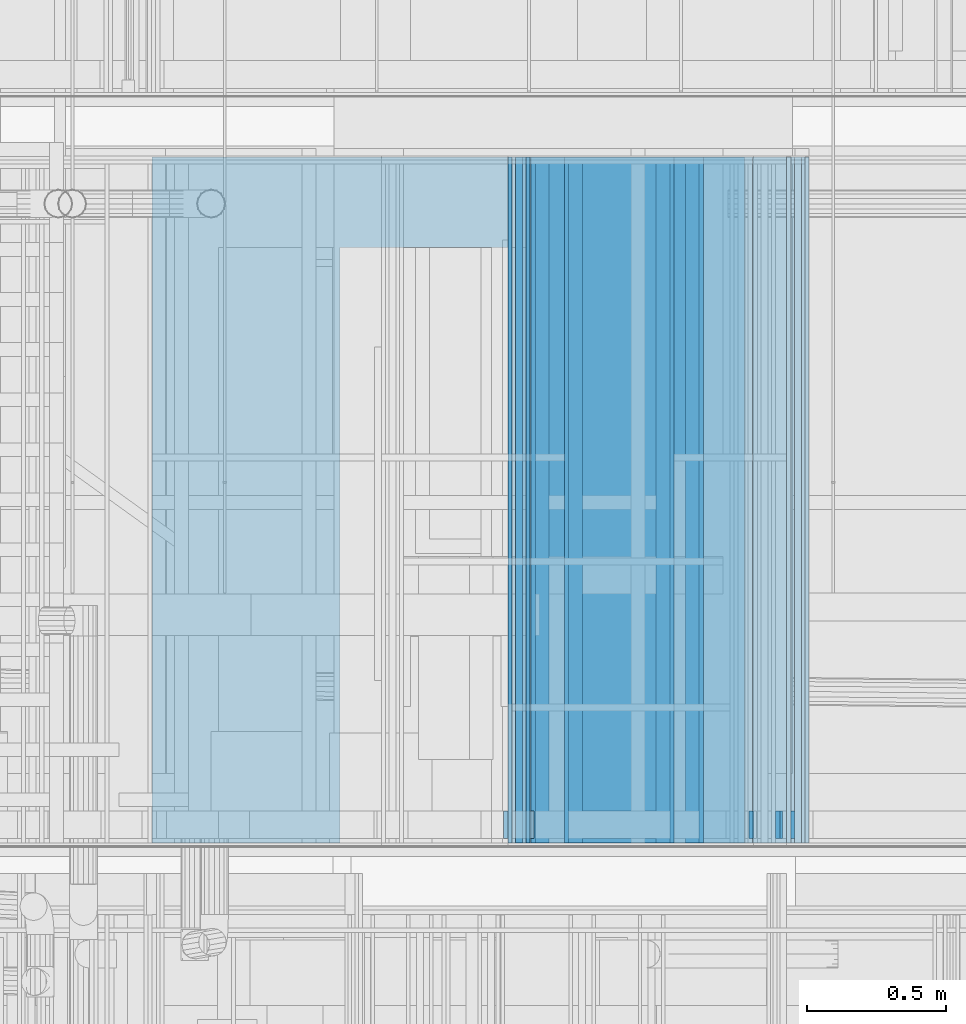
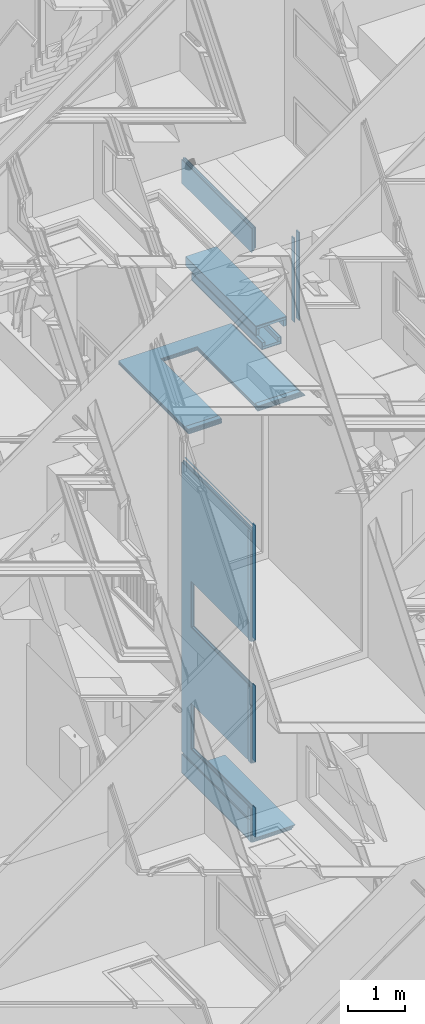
# One storey, part 160 of 583: 37 building element parts, 3 openings, 11 elements without a shape of their own.
"""IFC2X3 building model written with IfcOpenShell, lengths in metres."""

from ifc_helpers import new_model, entity, si_unit, converted_unit, derived_unit, money_unit, direction, frame, frame_2d, origin_with_axes, place, context, subcontext, project, spatial, polyline, rectangle, outline, extrude, material, type_object, element, aggregate, save


model = new_model("IFC2X3")

# Units and contexts
model_context = context("Model", 3, precision=1e-05, world=origin_with_axes(), true_north=direction((0.0, 1.0)))
body_context = subcontext(model_context, "Body", "Model", "MODEL_VIEW", scale=1.0)
ifc_project = project(units=[si_unit("LENGTHUNIT", "METRE"), si_unit("AREAUNIT", "SQUARE_METRE"), si_unit("VOLUMEUNIT", "CUBIC_METRE"), si_unit("ABSORBEDDOSEUNIT", "GRAY"), si_unit("AMOUNTOFSUBSTANCEUNIT", "MOLE"), si_unit("DOSEEQUIVALENTUNIT", "SIEVERT"), si_unit("ELECTRICCAPACITANCEUNIT", "FARAD"), si_unit("ELECTRICCHARGEUNIT", "COULOMB"), si_unit("ELECTRICCONDUCTANCEUNIT", "SIEMENS"), si_unit("ELECTRICCURRENTUNIT", "AMPERE"), si_unit("ELECTRICRESISTANCEUNIT", "OHM"), si_unit("ELECTRICVOLTAGEUNIT", "VOLT"), si_unit("ENERGYUNIT", "JOULE"), si_unit("FORCEUNIT", "NEWTON"), si_unit("FREQUENCYUNIT", "HERTZ"), si_unit("ILLUMINANCEUNIT", "LUX"), si_unit("INDUCTANCEUNIT", "HENRY"), si_unit("LUMINOUSFLUXUNIT", "LUMEN"), si_unit("LUMINOUSINTENSITYUNIT", "CANDELA"), si_unit("MAGNETICFLUXDENSITYUNIT", "TESLA"), si_unit("MAGNETICFLUXUNIT", "WEBER"), si_unit("MASSUNIT", "GRAM"), converted_unit("PLANEANGLEUNIT", "degree", entity("IfcReal", 0.0174532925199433), si_unit("PLANEANGLEUNIT", "RADIAN"), dimensions=[0, 0, 0, 0, 0, 0, 0]), si_unit("POWERUNIT", "WATT"), si_unit("PRESSUREUNIT", "PASCAL"), si_unit("RADIOACTIVITYUNIT", "BECQUEREL"), si_unit("SOLIDANGLEUNIT", "STERADIAN"), si_unit("THERMODYNAMICTEMPERATUREUNIT", "KELVIN"), si_unit("TIMEUNIT", "SECOND"), derived_unit("ACCELERATIONUNIT", [(si_unit("LENGTHUNIT", "METRE"), 1), (si_unit("TIMEUNIT", "SECOND"), -2)]), derived_unit("ANGULARVELOCITYUNIT", [(converted_unit("PLANEANGLEUNIT", "degree", entity("IfcReal", 0.0174532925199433), si_unit("PLANEANGLEUNIT", "RADIAN"), dimensions=[0, 0, 0, 0, 0, 0, 0]), 1), (si_unit("TIMEUNIT", "SECOND"), -1)]), derived_unit("CURVATUREUNIT", [(converted_unit("PLANEANGLEUNIT", "degree", entity("IfcReal", 0.0174532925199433), si_unit("PLANEANGLEUNIT", "RADIAN"), dimensions=[0, 0, 0, 0, 0, 0, 0]), 1), (si_unit("LENGTHUNIT", "METRE"), -1)]), derived_unit("DYNAMICVISCOSITYUNIT", [(si_unit("PRESSUREUNIT", "PASCAL"), 1), (si_unit("TIMEUNIT", "SECOND"), 1)]), derived_unit("HEATFLUXDENSITYUNIT", [(si_unit("POWERUNIT", "WATT"), 1), (si_unit("LENGTHUNIT", "METRE"), -2)]), derived_unit("HEATINGVALUEUNIT", [(si_unit("ENERGYUNIT", "JOULE"), 1), (si_unit("MASSUNIT", "GRAM"), -1)]), derived_unit("INTEGERCOUNTRATEUNIT", [(si_unit("TIMEUNIT", "SECOND"), -1)]), derived_unit("IONCONCENTRATIONUNIT", [(si_unit("MASSUNIT", "GRAM"), 1), (si_unit("VOLUMEUNIT", "CUBIC_METRE"), -1)]), derived_unit("ISOTHERMALMOISTURECAPACITYUNIT", [(si_unit("VOLUMEUNIT", "CUBIC_METRE"), 1), (si_unit("MASSUNIT", "GRAM"), -1)]), derived_unit("KINEMATICVISCOSITYUNIT", [(si_unit("AREAUNIT", "SQUARE_METRE"), 1), (si_unit("TIMEUNIT", "SECOND"), -1)]), derived_unit("LINEARFORCEUNIT", [(si_unit("FORCEUNIT", "NEWTON"), 1), (si_unit("LENGTHUNIT", "METRE"), -1)]), derived_unit("LINEARMOMENTUNIT", [(si_unit("FORCEUNIT", "NEWTON"), 1), (si_unit("LENGTHUNIT", "METRE"), -1)]), derived_unit("LINEARSTIFFNESSUNIT", [(si_unit("FORCEUNIT", "NEWTON"), 1), (si_unit("LENGTHUNIT", "METRE"), -1)]), derived_unit("LINEARVELOCITYUNIT", [(si_unit("LENGTHUNIT", "METRE"), 1), (si_unit("TIMEUNIT", "SECOND"), -1)]), derived_unit("LUMINOUSINTENSITYDISTRIBUTIONUNIT", [(si_unit("LUMINOUSINTENSITYUNIT", "CANDELA"), 1), (si_unit("LUMINOUSFLUXUNIT", "LUMEN"), -1)]), derived_unit("MASSDENSITYUNIT", [(si_unit("MASSUNIT", "GRAM"), 1), (si_unit("VOLUMEUNIT", "CUBIC_METRE"), -1)]), derived_unit("MASSFLOWRATEUNIT", [(si_unit("MASSUNIT", "GRAM"), 1), (si_unit("TIMEUNIT", "SECOND"), -1)]), derived_unit("MASSPERLENGTHUNIT", [(si_unit("MASSUNIT", "GRAM"), 1), (si_unit("LENGTHUNIT", "METRE"), -1)]), derived_unit("MODULUSOFELASTICITYUNIT", [(si_unit("FORCEUNIT", "NEWTON"), 1), (si_unit("AREAUNIT", "SQUARE_METRE"), -1)]), derived_unit("MODULUSOFLINEARSUBGRADEREACTIONUNIT", [(si_unit("FORCEUNIT", "NEWTON"), 1), (si_unit("LENGTHUNIT", "METRE"), -2)]), derived_unit("MODULUSOFROTATIONALSUBGRADEREACTIONUNIT", [(si_unit("FORCEUNIT", "NEWTON"), 1), (si_unit("LENGTHUNIT", "METRE"), 1)]), derived_unit("MODULUSOFSUBGRADEREACTIONUNIT", [(si_unit("FORCEUNIT", "NEWTON"), 1), (si_unit("VOLUMEUNIT", "CUBIC_METRE"), -1)]), derived_unit("MOISTUREDIFFUSIVITYUNIT", [(si_unit("VOLUMEUNIT", "CUBIC_METRE"), 1), (si_unit("TIMEUNIT", "SECOND"), -1)]), derived_unit("MOLECULARWEIGHTUNIT", [(si_unit("MASSUNIT", "GRAM"), 1), (si_unit("AMOUNTOFSUBSTANCEUNIT", "MOLE"), -1)]), derived_unit("PLANARFORCEUNIT", [(si_unit("FORCEUNIT", "NEWTON"), 1), (si_unit("LENGTHUNIT", "METRE"), -2)]), derived_unit("ROTATIONALFREQUENCYUNIT", [(si_unit("TIMEUNIT", "SECOND"), -1)]), derived_unit("ROTATIONALMASSUNIT", [(si_unit("MASSUNIT", "GRAM"), 1), (si_unit("LENGTHUNIT", "METRE"), 2)]), derived_unit("ROTATIONALSTIFFNESSUNIT", [(si_unit("FORCEUNIT", "NEWTON"), 1), (si_unit("LENGTHUNIT", "METRE"), 1), (converted_unit("PLANEANGLEUNIT", "degree", entity("IfcReal", 0.0174532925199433), si_unit("PLANEANGLEUNIT", "RADIAN"), dimensions=[0, 0, 0, 0, 0, 0, 0]), -1)]), derived_unit("SECTIONAREAINTEGRALUNIT", [(si_unit("LENGTHUNIT", "METRE"), 5)]), derived_unit("SECTIONMODULUSUNIT", [(si_unit("LENGTHUNIT", "METRE"), 3)]), derived_unit("SHEARMODULUSUNIT", [(si_unit("FORCEUNIT", "NEWTON"), 1), (si_unit("AREAUNIT", "SQUARE_METRE"), -1)]), derived_unit("SOUNDPOWERUNIT", [(si_unit("ENERGYUNIT", "JOULE"), 1), (si_unit("TIMEUNIT", "SECOND"), -1)]), derived_unit("SPECIFICHEATCAPACITYUNIT", [(si_unit("FORCEUNIT", "NEWTON"), 1), (si_unit("MASSUNIT", "GRAM"), -1), (si_unit("THERMODYNAMICTEMPERATUREUNIT", "KELVIN"), -1)]), derived_unit("TEMPERATUREGRADIENTUNIT", [(si_unit("THERMODYNAMICTEMPERATUREUNIT", "KELVIN"), 1), (si_unit("LENGTHUNIT", "METRE"), -1)]), derived_unit("THERMALADMITTANCEUNIT", [(si_unit("POWERUNIT", "WATT"), 1), (si_unit("AREAUNIT", "SQUARE_METRE"), -1), (si_unit("THERMODYNAMICTEMPERATUREUNIT", "KELVIN"), -1)]), derived_unit("THERMALCONDUCTANCEUNIT", [(si_unit("POWERUNIT", "WATT"), 1), (si_unit("LENGTHUNIT", "METRE"), -1), (si_unit("THERMODYNAMICTEMPERATUREUNIT", "KELVIN"), -1)]), derived_unit("THERMALEXPANSIONCOEFFICIENTUNIT", [(si_unit("THERMODYNAMICTEMPERATUREUNIT", "KELVIN"), -1)]), derived_unit("THERMALRESISTANCEUNIT", [(si_unit("AREAUNIT", "SQUARE_METRE"), 1), (si_unit("POWERUNIT", "WATT"), -1)]), derived_unit("THERMALTRANSMITTANCEUNIT", [(si_unit("POWERUNIT", "WATT"), 1), (si_unit("AREAUNIT", "SQUARE_METRE"), -1), (si_unit("THERMODYNAMICTEMPERATUREUNIT", "KELVIN"), -1)]), derived_unit("TORQUEUNIT", [(si_unit("FORCEUNIT", "NEWTON"), 1), (si_unit("LENGTHUNIT", "METRE"), 1)]), derived_unit("VAPORPERMEABILITYUNIT", [(si_unit("MASSUNIT", "GRAM"), 1), (si_unit("TIMEUNIT", "SECOND"), -1)]), derived_unit("VOLUMETRICFLOWRATEUNIT", [(si_unit("VOLUMEUNIT", "CUBIC_METRE"), 1), (si_unit("TIMEUNIT", "SECOND"), -1)]), derived_unit("WARPINGCONSTANTUNIT", [(si_unit("LENGTHUNIT", "METRE"), 6)]), derived_unit("WARPINGMOMENTUNIT", [(si_unit("FORCEUNIT", "NEWTON"), 1), (si_unit("LENGTHUNIT", "METRE"), 2)]), money_unit("GBP")], contexts=[model_context])

# Site, building, storey
site_placement = place(None, origin_with_axes())
site = spatial("IfcSite", under=ifc_project, at=site_placement, Name="Site", CompositionType="ELEMENT")
building_placement = place(site_placement, origin_with_axes())
building = spatial("IfcBuilding", under=site, at=building_placement, Name="Building01", CompositionType="ELEMENT")
storey_placement = place(building_placement, frame((0.0, 0.0, 20.78), z_axis=(0.0, 0.0, 1.0), x_axis=(1.0, 0.0, 0.0)))
storey = spatial("IfcBuildingStorey", under=building, at=storey_placement, Name="RL", CompositionType="ELEMENT", Elevation=20.78)

# Wall, building element parts
wall_type_1 = type_object("IfcWallType", Name="SHE_A-Walls_Type05c_PreWallShell_65mm", PredefinedType="NOTDEFINED")
wall_1_placement = place(storey_placement, frame((10.683806, 14.98, -7.417619), z_axis=(0.0, 1.0, 0.0), x_axis=(-1.0, 0.0, 0.0)))
wall_1 = element("IfcWall", 1, at=wall_1_placement, inside=storey, type_object=wall_type_1, Name="5C", ObjectType="SHE_A-Walls_Type05c_PreWallShell_65mm")
ifc_material_1 = material(Name="A_BSUK_OpeningsClearance")
placement_1 = place(wall_1_placement, origin_with_axes())
building_element_part_1 = element("IfcBuildingElementPart", 2, at=placement_1, material=ifc_material_1, Name="1", context=body_context, shape_type="SweptSolid", body=[
    extrude(rectangle(XDim=0.364957, YDim=0.05, at=frame_2d((0.182478, -0.025), x_axis=(-1.0, 0.0))), origin_with_axes(), (0.0, 0.0, 1.0), 2.468),
])
ifc_material_2 = material(Name="A_BSUK_Walls_Timber")
building_element_part_2 = element("IfcBuildingElementPart", 3, at=placement_1, material=ifc_material_2, Name="2", context=body_context, shape_type="SweptSolid", body=[
    extrude(rectangle(XDim=0.394957, YDim=0.015, at=frame_2d((0.182478, -0.0575), x_axis=(-1.0, 0.0))), origin_with_axes(), (0.0, 0.0, 1.0), 2.468),
])
aggregate(wall_1, [building_element_part_1, building_element_part_2])

wall_2_placement = place(storey_placement, frame((10.368849, 14.98, -7.33), z_axis=(0.0, 1.0, 0.0), x_axis=(0.0, 0.0, -1.0)))
wall_2 = element("IfcWall", 4, at=wall_2_placement, inside=storey, type_object=wall_type_1, Name="5C", ObjectType="SHE_A-Walls_Type05c_PreWallShell_65mm")
placement_2 = place(wall_2_placement, origin_with_axes())
building_element_part_3 = element("IfcBuildingElementPart", 5, at=placement_2, material=ifc_material_1, Name="1", context=body_context, shape_type="SweptSolid", body=[
    extrude(rectangle(XDim=0.087619, YDim=0.05, at=frame_2d((0.04381, 0.025), x_axis=(-1.0, 0.0))), origin_with_axes(), (0.0, 0.0, 1.0), 2.468),
])
building_element_part_4 = element("IfcBuildingElementPart", 6, at=placement_2, material=ifc_material_2, Name="2", context=body_context, shape_type="SweptSolid", body=[
    extrude(rectangle(XDim=0.137619, YDim=0.015, at=frame_2d((0.06881, 0.0575), x_axis=(-1.0, 0.0))), origin_with_axes(), (0.0, 0.0, 1.0), 2.468),
])
aggregate(wall_2, [building_element_part_3, building_element_part_4])

wall_3_placement = place(storey_placement, frame((10.633806, 14.98, -7.33), z_axis=(0.0, 1.0, 0.0), x_axis=(0.0, 0.0, -1.0)))
wall_3 = element("IfcWall", 7, at=wall_3_placement, inside=storey, type_object=wall_type_1, Name="5C", ObjectType="SHE_A-Walls_Type05c_PreWallShell_65mm")
placement_3 = place(wall_3_placement, origin_with_axes())
building_element_part_5 = element("IfcBuildingElementPart", 8, at=placement_3, material=ifc_material_1, Name="1", context=body_context, shape_type="SweptSolid", body=[
    extrude(rectangle(XDim=0.08763, YDim=0.05, at=frame_2d((0.043815, -0.025), x_axis=(-1.0, 0.0))), origin_with_axes(), (0.0, 0.0, 1.0), 2.468),
])
building_element_part_6 = element("IfcBuildingElementPart", 9, at=placement_3, material=ifc_material_2, Name="2", context=body_context, shape_type="SweptSolid", body=[
    extrude(rectangle(XDim=0.137619, YDim=0.015, at=frame_2d((0.06881, -0.0575), x_axis=(-1.0, 0.0))), origin_with_axes(), (0.0, 0.0, 1.0), 2.468),
])
aggregate(wall_3, [building_element_part_5, building_element_part_6])

wall_4_placement = place(storey_placement, frame((10.788883, 14.98, -6.995002), z_axis=(0.0, 1.0, 0.0), x_axis=(-1.0, 0.0, 0.0)))
wall_4 = element("IfcWall", 10, at=wall_4_placement, inside=storey, type_object=wall_type_1, Name="5C", ObjectType="SHE_A-Walls_Type05c_PreWallShell_65mm")
placement_4 = place(wall_4_placement, origin_with_axes())
building_element_part_7 = element("IfcBuildingElementPart", 11, at=placement_4, material=ifc_material_1, Name="1", context=body_context, shape_type="SweptSolid", body=[
    extrude(rectangle(XDim=0.590094, YDim=0.05, at=frame_2d((0.295047, 0.025), x_axis=(-1.0, 0.0))), origin_with_axes(), (0.0, 0.0, 1.0), 2.468),
])
building_element_part_8 = element("IfcBuildingElementPart", 12, at=placement_4, material=ifc_material_2, Name="2", context=body_context, shape_type="SweptSolid", body=[
    extrude(rectangle(XDim=0.620094, YDim=0.015, at=frame_2d((0.295047, 0.0575), x_axis=(-1.0, 0.0))), origin_with_axes(), (0.0, 0.0, 1.0), 2.468),
])
aggregate(wall_4, [building_element_part_7, building_element_part_8])

wall_5_placement = place(storey_placement, frame((10.738883, 14.98, -7.13), z_axis=(0.0, 1.0, 0.0), x_axis=(0.0, 0.0, 1.0)))
wall_5 = element("IfcWall", 13, at=wall_5_placement, inside=storey, type_object=wall_type_1, Name="5C", ObjectType="SHE_A-Walls_Type05c_PreWallShell_65mm")
placement_5 = place(wall_5_placement, origin_with_axes())
building_element_part_9 = element("IfcBuildingElementPart", 14, at=placement_5, material=ifc_material_1, Name="1", context=body_context, shape_type="SweptSolid", body=[
    extrude(rectangle(XDim=0.134998, YDim=0.05, at=frame_2d((0.067499, 0.025), x_axis=(-1.0, 0.0))), origin_with_axes(), (0.0, 0.0, 1.0), 2.468),
])
building_element_part_10 = element("IfcBuildingElementPart", 15, at=placement_5, material=ifc_material_2, Name="2", context=body_context, shape_type="SweptSolid", body=[
    extrude(rectangle(XDim=0.184998, YDim=0.015, at=frame_2d((0.092499, 0.0575), x_axis=(-1.0, 0.0))), origin_with_axes(), (0.0, 0.0, 1.0), 2.468),
])
aggregate(wall_5, [building_element_part_9, building_element_part_10])

wall_6_placement = place(storey_placement, frame((10.248789, 14.98, -7.13), z_axis=(0.0, 1.0, 0.0), x_axis=(0.0, 0.0, 1.0)))
wall_6 = element("IfcWall", 16, at=wall_6_placement, inside=storey, type_object=wall_type_1, Name="5C", ObjectType="SHE_A-Walls_Type05c_PreWallShell_65mm")
placement_6 = place(wall_6_placement, origin_with_axes())
building_element_part_11 = element("IfcBuildingElementPart", 17, at=placement_6, material=ifc_material_1, Name="1", context=body_context, shape_type="SweptSolid", body=[
    extrude(rectangle(XDim=0.134998, YDim=0.05, at=frame_2d((0.067499, -0.025), x_axis=(-1.0, 0.0))), origin_with_axes(), (0.0, 0.0, 1.0), 2.468),
])
building_element_part_12 = element("IfcBuildingElementPart", 18, at=placement_6, material=ifc_material_2, Name="2", context=body_context, shape_type="SweptSolid", body=[
    extrude(rectangle(XDim=0.184998, YDim=0.015, at=frame_2d((0.092499, -0.0575), x_axis=(-1.0, 0.0))), origin_with_axes(), (0.0, 0.0, 1.0), 2.468),
])
aggregate(wall_6, [building_element_part_11, building_element_part_12])

wall_type_2 = type_object("IfcWallType", Name="SHE_A-Walls_Type05b_Partition_80mm", PredefinedType="NOTDEFINED")
wall_7_placement = place(storey_placement, frame((10.126939, 14.98, -5.303002), z_axis=(0.0, 1.0, 0.0), x_axis=(0.0, 0.0, 1.0)))
wall_7 = element("IfcWall", 19, at=wall_7_placement, inside=storey, type_object=wall_type_2, Name="5B", ObjectType="SHE_A-Walls_Type05b_Partition_80mm")
ifc_material_3 = material(Name="A_BSUK_Insulation")
placement_7 = place(wall_7_placement, origin_with_axes())
building_element_part_13 = element("IfcBuildingElementPart", 20, at=placement_7, material=ifc_material_3, Name="1", context=body_context, shape_type="SweptSolid", body=[
    extrude(outline(polyline([(0.509442, 0.025), (0.025, 0.025), (0.0, 0.0), (0.509442, 0.0), (0.509442, 0.025)])), origin_with_axes(), (0.0, 0.0, 1.0), 2.468),
])
ifc_material_4 = material(Name="A_BSUK_WallInternal_Finishes_Plasterboard")
building_element_part_14 = element("IfcBuildingElementPart", 21, at=placement_7, material=ifc_material_4, Name="3", context=body_context, shape_type="SweptSolid", body=[
    extrude(outline(polyline([(0.496442, 0.053), (0.053, 0.053), (0.038, 0.038), (0.496442, 0.038), (0.496442, 0.053)])), origin_with_axes(), (0.0, 0.0, 1.0), 2.468),
])
building_element_part_15 = element("IfcBuildingElementPart", 22, at=placement_7, material=ifc_material_4, Name="4", context=body_context, shape_type="SweptSolid", body=[
    extrude(outline(polyline([(0.481442, -0.012), (-0.012, -0.012), (-0.027, -0.027), (0.481442, -0.027), (0.481442, -0.012)])), origin_with_axes(), (0.0, 0.0, 1.0), 2.468),
])
aggregate(wall_7, [building_element_part_13, building_element_part_14, building_element_part_15])

# Wall, opening, building element parts
wall_8_placement = place(storey_placement, frame((11.156849, 14.98, -8.735619), z_axis=(0.0, 1.0, 0.0), x_axis=(-1.0, 0.0, 0.0)))
wall_8 = element("IfcWall", 23, at=wall_8_placement, inside=storey, type_object=wall_type_2, Name="5B", ObjectType="SHE_A-Walls_Type05b_Partition_80mm")
opening_1_placement = place(wall_8_placement, frame((0.926, -0.027, 0.0), z_axis=(0.0, 0.0, 1.0), x_axis=(1.0, 0.0, 0.0)))
element("IfcOpeningElement", 24, at=opening_1_placement, cuts=wall_8, Name="Opening", ObjectType="Opening", context=body_context, shape_type="SweptSolid", body=[
    extrude(rectangle(XDim=2.142, YDim=0.734, at=frame_2d((0.367, 1.071), x_axis=(0.0, -1.0))), frame((0.0, 3.739125, 0.0), z_axis=(0.0, -1.0, 0.0), x_axis=(1.0, 0.0, 0.0)), (0.0, 0.0, 1.0), 7.478251),
])
placement_8 = place(wall_8_placement, origin_with_axes())
building_element_part_16 = element("IfcBuildingElementPart", 25, at=placement_8, material=ifc_material_3, Name="1", context=body_context, shape_type="SweptSolid", body=[
    extrude(outline(polyline([(2.336849, 0.025), (0.025, 0.025), (0.0, 0.0), (2.336849, 0.0), (2.336849, 0.025)])), origin_with_axes(), (0.0, 0.0, 1.0), 2.468),
])
building_element_part_17 = element("IfcBuildingElementPart", 26, at=placement_8, material=ifc_material_2, Name="2", context=body_context, shape_type="SweptSolid", body=[
    extrude(outline(polyline([(2.336849, 0.068), (0.068, 0.068), (0.053, 0.053), (2.336849, 0.053), (2.336849, 0.068)])), frame((0.0, 0.0, 0.015), z_axis=(0.0, 0.0, 1.0), x_axis=(1.0, 0.0, 0.0)), (0.0, 0.0, 1.0), 0.1),
])
building_element_part_18 = element("IfcBuildingElementPart", 27, at=placement_8, material=ifc_material_4, Name="3", context=body_context, shape_type="SweptSolid", body=[
    extrude(outline(polyline([(2.336849, 0.053), (0.053, 0.053), (0.038, 0.038), (2.336849, 0.038), (2.336849, 0.053)])), origin_with_axes(), (0.0, 0.0, 1.0), 2.468),
])
building_element_part_19 = element("IfcBuildingElementPart", 28, at=placement_8, material=ifc_material_4, Name="4", context=body_context, shape_type="SweptSolid", body=[
    extrude(outline(polyline([(2.336849, -0.012), (-0.012, -0.012), (-0.027, -0.027), (2.336849, -0.027), (2.336849, -0.012)])), origin_with_axes(), (0.0, 0.0, 1.0), 2.468),
])
building_element_part_20 = element("IfcBuildingElementPart", 29, at=placement_8, material=ifc_material_2, Name="5", context=body_context, shape_type="SweptSolid", body=[
    extrude(outline(polyline([(2.321849, -0.027), (-0.027, -0.027), (-0.042, -0.042), (2.321849, -0.042), (2.321849, -0.027)])), frame((0.0, 0.0, 0.015), z_axis=(0.0, 0.0, 1.0), x_axis=(1.0, 0.0, 0.0)), (0.0, 0.0, 1.0), 0.1),
])
aggregate(wall_8, [building_element_part_16, building_element_part_17, building_element_part_18, building_element_part_19, building_element_part_20])

# Wall, openings, building element parts
wall_9_placement = place(storey_placement, frame((10.126939, 14.98, -17.908), z_axis=(0.0, 1.0, 0.0), x_axis=(0.0, 0.0, 1.0)))
wall_9 = element("IfcWall", 30, at=wall_9_placement, inside=storey, type_object=wall_type_2, Name="5B", ObjectType="SHE_A-Walls_Type05b_Partition_80mm")
opening_2_placement = place(wall_9_placement, frame((0.656, 0.093, 0.0), z_axis=(0.0, 0.0, 1.0), x_axis=(1.0, 0.0, 0.0)))
element("IfcOpeningElement", 31, at=opening_2_placement, cuts=wall_9, Name="Opening", ObjectType="Opening", context=body_context, shape_type="SweptSolid", body=[
    extrude(rectangle(XDim=0.984, YDim=2.142, at=frame_2d((-0.492, 1.071), x_axis=(-1.0, 0.0))), frame((0.0, -7.787753, 0.0), z_axis=(0.0, 1.0, 0.0), x_axis=(-1.0, 0.0, 0.0)), (0.0, 0.0, 1.0), 15.575506),
])
opening_3_placement = place(wall_9_placement, frame((3.266024, 0.093, 0.0), z_axis=(0.0, 0.0, 1.0), x_axis=(1.0, 0.0, 0.0)))
element("IfcOpeningElement", 32, at=opening_3_placement, cuts=wall_9, Name="Opening", ObjectType="Opening", context=body_context, shape_type="SweptSolid", body=[
    extrude(rectangle(XDim=0.984, YDim=2.142, at=frame_2d((-0.492, 1.071), x_axis=(1.0, 0.0))), frame((0.0, -7.787753, 0.0), z_axis=(0.0, 1.0, 0.0), x_axis=(-1.0, 0.0, 0.0)), (0.0, 0.0, 1.0), 15.575506),
])
placement_9 = place(wall_9_placement, origin_with_axes())
building_element_part_21 = element("IfcBuildingElementPart", 33, at=placement_9, material=ifc_material_3, Name="1", context=body_context, shape_type="SweptSolid", body=[
    extrude(rectangle(XDim=6.636024, YDim=0.025, at=frame_2d((3.318012, 0.0125), x_axis=(-1.0, 0.0))), origin_with_axes(), (0.0, 0.0, 1.0), 2.468),
])
building_element_part_22 = element("IfcBuildingElementPart", 34, at=placement_9, material=ifc_material_2, Name="2", context=body_context, shape_type="SweptSolid", body=[
    extrude(outline(polyline([(6.703024, 0.068), (0.043, 0.068), (0.028, 0.053), (6.688024, 0.053), (6.703024, 0.068)])), frame((0.0, 0.0, 0.015), z_axis=(0.0, 0.0, 1.0), x_axis=(1.0, 0.0, 0.0)), (0.0, 0.0, 1.0), 0.1),
])
building_element_part_23 = element("IfcBuildingElementPart", 35, at=placement_9, material=ifc_material_4, Name="3", context=body_context, shape_type="SweptSolid", body=[
    extrude(rectangle(XDim=2.015024, YDim=0.015, at=frame_2d((1.035512, 0.0455), x_axis=(-1.0, 0.0))), origin_with_axes(), (0.0, 0.0, 1.0), 2.468),
])
building_element_part_24 = element("IfcBuildingElementPart", 36, at=placement_9, material=ifc_material_4, Name="4", context=body_context, shape_type="SweptSolid", body=[
    extrude(rectangle(XDim=0.4, YDim=0.015, at=frame_2d((0.163, -0.0195), x_axis=(-1.0, 0.0))), origin_with_axes(), (0.0, 0.0, 1.0), 2.468),
])
building_element_part_25 = element("IfcBuildingElementPart", 37, at=placement_9, material=ifc_material_2, Name="5", context=body_context, shape_type="SweptSolid", body=[
    extrude(outline(polyline([(6.608024, -0.027), (-0.052, -0.027), (-0.052, -0.042), (6.593024, -0.042), (6.608024, -0.027)])), frame((0.0, 0.0, 0.015), z_axis=(0.0, 0.0, 1.0), x_axis=(1.0, 0.0, 0.0)), (0.0, 0.0, 1.0), 0.1),
])
building_element_part_26 = element("IfcBuildingElementPart", 38, at=placement_9, material=ifc_material_2, Name="6", context=body_context, shape_type="SweptSolid", body=[
    extrude(outline(polyline([(6.703024, 0.068), (0.043, 0.068), (0.028, 0.053), (6.688024, 0.053), (6.703024, 0.068)])), frame((0.0, 0.0, 0.015), z_axis=(0.0, 0.0, 1.0), x_axis=(1.0, 0.0, 0.0)), (0.0, 0.0, 1.0), 0.1),
])
building_element_part_27 = element("IfcBuildingElementPart", 39, at=placement_9, material=ifc_material_4, Name="7", context=body_context, shape_type="SweptSolid", body=[
    extrude(rectangle(XDim=0.015, YDim=2.21, at=frame_2d((5.503024, 0.0455), x_axis=(0.0, -1.0))), origin_with_axes(), (0.0, 0.0, 1.0), 2.468),
])
building_element_part_28 = element("IfcBuildingElementPart", 40, at=placement_9, material=ifc_material_2, Name="8", context=body_context, shape_type="SweptSolid", body=[
    extrude(outline(polyline([(6.703024, 0.068), (0.043, 0.068), (0.043, 0.053), (6.688024, 0.053), (6.703024, 0.068)])), frame((0.0, 0.0, 0.015), z_axis=(0.0, 0.0, 1.0), x_axis=(1.0, 0.0, 0.0)), (0.0, 0.0, 1.0), 0.1),
])
building_element_part_29 = element("IfcBuildingElementPart", 41, at=placement_9, material=ifc_material_4, Name="9", context=body_context, shape_type="SweptSolid", body=[
    extrude(rectangle(XDim=4.5, YDim=0.015, at=frame_2d((4.358024, 0.0455), x_axis=(-1.0, 0.0))), origin_with_axes(), (0.0, 0.0, 1.0), 2.468),
])
building_element_part_30 = element("IfcBuildingElementPart", 42, at=placement_9, material=ifc_material_4, Name="10", context=body_context, shape_type="SweptSolid", body=[
    extrude(rectangle(XDim=6.195024, YDim=0.015, at=frame_2d((3.510512, -0.0195), x_axis=(-1.0, 0.0))), origin_with_axes(), (0.0, 0.0, 1.0), 2.468),
])
building_element_part_31 = element("IfcBuildingElementPart", 43, at=placement_9, material=ifc_material_2, Name="11", context=body_context, shape_type="SweptSolid", body=[
    extrude(outline(polyline([(6.608024, -0.027), (0.428, -0.027), (0.428, -0.042), (6.593024, -0.042), (6.608024, -0.027)])), frame((0.0, 0.0, 0.015), z_axis=(0.0, 0.0, 1.0), x_axis=(1.0, 0.0, 0.0)), (0.0, 0.0, 1.0), 0.1),
])
building_element_part_32 = element("IfcBuildingElementPart", 44, at=placement_9, material=ifc_material_4, Name="12", context=body_context, shape_type="SweptSolid", body=[
    extrude(outline(polyline([(6.688024, 0.053), (6.673024, 0.053), (6.673024, 0.038), (6.688024, 0.053)])), origin_with_axes(), (0.0, 0.0, 1.0), 2.468),
])
aggregate(wall_9, [building_element_part_21, building_element_part_22, building_element_part_23, building_element_part_24, building_element_part_25, building_element_part_26, building_element_part_27, building_element_part_28, building_element_part_29, building_element_part_30, building_element_part_31, building_element_part_32])

# Wall, building element parts
wall_10_placement = place(storey_placement, frame((10.126939, 14.98, -17.908), z_axis=(0.0, 1.0, 0.0), x_axis=(1.0, 0.0, 0.0)))
wall_10 = element("IfcWall", 45, at=wall_10_placement, inside=storey, type_object=wall_type_2, Name="5B", ObjectType="SHE_A-Walls_Type05b_Partition_80mm")
placement_10 = place(wall_10_placement, origin_with_axes())
building_element_part_33 = element("IfcBuildingElementPart", 46, at=placement_10, material=ifc_material_3, Name="1", context=body_context, shape_type="SweptSolid", body=[
    extrude(outline(polyline([(0.799976, 0.025), (0.0, 0.025), (0.0, 0.0), (0.824976, 0.0), (0.799976, 0.025)])), origin_with_axes(), (0.0, 0.0, 1.0), 2.468),
])
building_element_part_34 = element("IfcBuildingElementPart", 47, at=placement_10, material=ifc_material_4, Name="3", context=body_context, shape_type="SweptSolid", body=[
    extrude(outline(polyline([(0.837976, -0.013), (0.038, -0.013), (0.038, -0.028), (0.852976, -0.028), (0.837976, -0.013)])), origin_with_axes(), (0.0, 0.0, 1.0), 2.468),
])
building_element_part_35 = element("IfcBuildingElementPart", 48, at=placement_10, material=ifc_material_4, Name="4", context=body_context, shape_type="SweptSolid", body=[
    extrude(outline(polyline([(0.772976, 0.052), (-0.027, 0.052), (-0.027, 0.037), (0.787976, 0.037), (0.772976, 0.052)])), origin_with_axes(), (0.0, 0.0, 1.0), 2.468),
])
aggregate(wall_10, [building_element_part_33, building_element_part_34, building_element_part_35])

wall_11_placement = place(storey_placement, frame((11.036789, 14.98, -5.278002), z_axis=(0.0, 1.0, 0.0), x_axis=(0.0, 0.0, -1.0)))
wall_11 = element("IfcWall", 49, at=wall_11_placement, inside=storey, type_object=wall_type_2, Name="5B", ObjectType="SHE_A-Walls_Type05b_Partition_80mm")
placement_11 = place(wall_11_placement, origin_with_axes())
building_element_part_36 = element("IfcBuildingElementPart", 50, at=placement_11, material=ifc_material_2, Name="2", context=body_context, shape_type="SweptSolid", body=[
    extrude(outline(polyline([(1.851998, 0.068), (0.067, 0.068), (0.052, 0.053), (1.851998, 0.053), (1.851998, 0.068)])), frame((0.0, 0.0, 0.015), z_axis=(0.0, 0.0, 1.0), x_axis=(1.0, 0.0, 0.0)), (0.0, 0.0, 1.0), 0.1),
])
building_element_part_37 = element("IfcBuildingElementPart", 51, at=placement_11, material=ifc_material_2, Name="5", context=body_context, shape_type="SweptSolid", body=[
    extrude(outline(polyline([(1.851998, -0.027), (-0.028, -0.027), (-0.043, -0.042), (1.851998, -0.042), (1.851998, -0.027)])), frame((0.0, 0.0, 0.015), z_axis=(0.0, 0.0, 1.0), x_axis=(1.0, 0.0, 0.0)), (0.0, 0.0, 1.0), 0.1),
])
aggregate(wall_11, [building_element_part_36, building_element_part_37])

save(model, "model.ifc")
